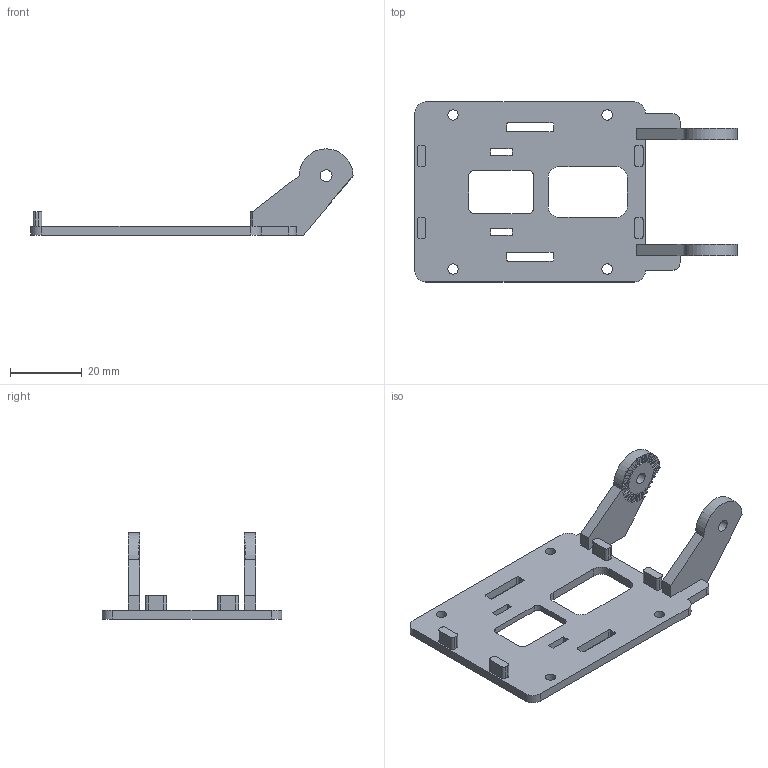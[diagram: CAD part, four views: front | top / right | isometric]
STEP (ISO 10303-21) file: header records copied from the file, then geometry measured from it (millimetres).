
FILE_DESCRIPTION(('Open CASCADE Model'),'2;1');
FILE_NAME('Open CASCADE Shape Model','2026-10-11T20:53:55',('Author'),( 'Open CASCADE'),'Open CASCADE STEP processor 7.8','Open CASCADE 7.8' ,'Unknown');
FILE_SCHEMA(('AUTOMOTIVE_DESIGN { 1 0 10303 214 1 1 1 1 }'));
Length unit declared in the file: millimetre
Products named in the file (1): Open CASCADE STEP translator 7.8 6
Bounding box: 89.5 x 50 x 24 mm (x, y, z)
Volume: 8914.8 mm3; surface area: 8807.7 mm2
Topology: 1 solids, 1 shells, 349 faces, 918 edges, 612 vertices
Faces by surface type: plane 303, cylinder 46
Full cylindrical faces by diameter (mm): 2.9 x4, 3.3 x2
Entity records: 22188 total; most frequent: CARTESIAN_POINT 4378, DIRECTION 3014, LINE 2064, VECTOR 2064, ORIENTED_EDGE 1836, PCURVE 1836, DEFINITIONAL_REPRESENTATION 1836, EDGE_CURVE 918
